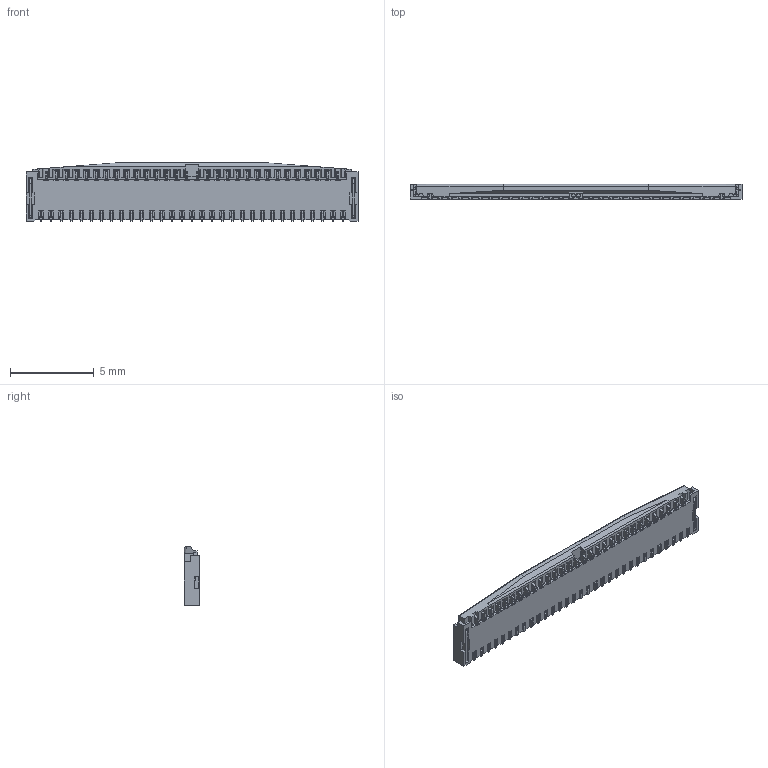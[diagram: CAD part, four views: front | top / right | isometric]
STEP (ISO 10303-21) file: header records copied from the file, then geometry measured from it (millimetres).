
FILE_DESCRIPTION (( 'STEP AP203' ), '1' );
FILE_NAME ('20605-061E-02C ACT CLOSE STEP R4 ALL.STEP', '2015-09-14T05:46:30', ( '' ), ( '' ), 'SwSTEP 2.0', 'SolidWorks 2012', '' );
FILE_SCHEMA (( 'CONFIG_CONTROL_DESIGN' ));
Products named in the file (1): 20605-061E-02C ACT CLOSE STEP R4 ALL
Bounding box: 19.8 x 0.9 x 3.5 mm (x, y, z)
Volume: 46.8 mm3; surface area: 304.5 mm2
Topology: 1 solids, 1 shells, 5246 faces, 15724 edges, 10362 vertices
Faces by surface type: plane 4498, cylinder 722, bspline 24, torus 2
Entity records: 175455 total; most frequent: CARTESIAN_POINT 33087, ORIENTED_EDGE 31448, DIRECTION 27260, EDGE_CURVE 15724, LINE 14046, VECTOR 14046, VERTEX_POINT 10362, AXIS2_PLACEMENT_3D 6607
